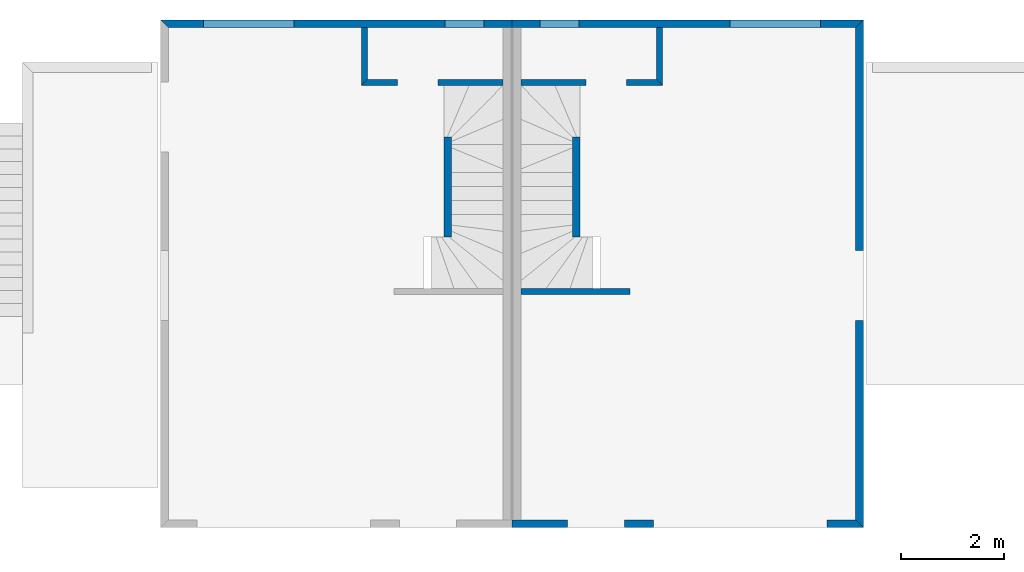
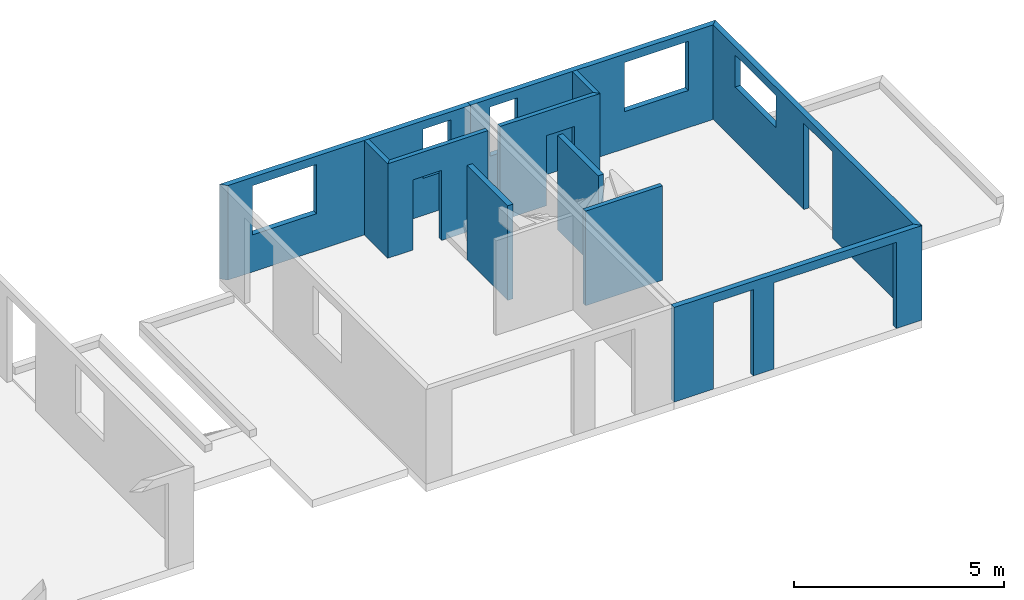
# One storey, part 2 of 8: 11 walls, 10 openings.
"""IFC2X3 building model written with IfcOpenShell, lengths in metres."""

from ifc_helpers import new_model, entity, si_unit, converted_unit, money_unit, direction, frame, origin_with_axes, origin_2d_with_axis, place, context, subcontext, project, spatial, polyline, rectangle, outline, extrude, material, layer, layer_set, layer_usage, type_object, element, save


model = new_model("IFC2X3")

# Units and contexts
model_context = context("Model", 3, precision=1e-05, world=origin_with_axes(), true_north=direction((0.0, 1.0)))
body_context = subcontext(model_context, "Body", "Model", "MODEL_VIEW")
ifc_project = project(units=[si_unit("LENGTHUNIT", "METRE"), si_unit("AREAUNIT", "SQUARE_METRE"), si_unit("VOLUMEUNIT", "CUBIC_METRE"), converted_unit("PLANEANGLEUNIT", "DEGREE", entity("IfcPlaneAngleMeasure", 0.0174532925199), si_unit("PLANEANGLEUNIT", "RADIAN"), dimensions=[0, 0, 0, 0, 0, 0, 0]), si_unit("SOLIDANGLEUNIT", "STERADIAN"), money_unit("EUR"), si_unit("TIMEUNIT", "SECOND"), si_unit("MASSUNIT", "GRAM"), si_unit("THERMODYNAMICTEMPERATUREUNIT", "DEGREE_CELSIUS"), si_unit("LUMINOUSINTENSITYUNIT", "LUMEN")], contexts=[model_context])

# Site, building, storey
site_placement = place(None, origin_with_axes())
site = spatial("IfcSite", under=ifc_project, at=site_placement, Name="Gelände", CompositionType="ELEMENT")
building_placement = place(site_placement, origin_with_axes())
building = spatial("IfcBuilding", under=site, at=building_placement, Name="Gebäude", CompositionType="ELEMENT")
storey_placement = place(building_placement, origin_with_axes())
storey = spatial("IfcBuildingStorey", under=building, at=storey_placement, Name="Erdgeschoss", CompositionType="ELEMENT", Elevation=0.0)

# Wall, openings
ifc_material = material(Name="MW, Backstein")
ifc_layer_1 = layer(ifc_material, 0.15, ventilated="UNKNOWN")
ifc_layer_set_1 = layer_set([ifc_layer_1], Name="MW, Backstein 0.15")
ifc_layer_usage_1 = layer_usage(ifc_layer_set_1, "AXIS2", "POSITIVE", 0.0)
wall_type_1 = type_object("IfcWallType", Name="MW, Backstein 150", PredefinedType="NOTDEFINED")
wall_1_placement = place(storey_placement, frame((32.3739410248, -7.59220593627, 0.0), z_axis=(0.0, 0.0, 1.0), x_axis=(1.0, 0.0, 0.0)))
wall_1 = element("IfcWallStandardCase", 1, at=wall_1_placement, inside=storey, type_object=wall_type_1, material=ifc_layer_usage_1, Name="Aussenwand D", context=body_context, shape_type="SweptSolid", body=[
    extrude(outline(polyline([(0.0, 0.0), (6.82, 0.0), (6.67, 0.15), (0.0, 0.15), (0.0, 0.0)])), origin_with_axes(), (0.0, 0.0, 1.0), 2.75),
])
opening_1_placement = place(wall_1_placement, frame((4.43, 0.0, 0.0), z_axis=(0.0, 0.0, 1.0), x_axis=(1.0, 0.0, 0.0)))
element("IfcOpeningElement", 2, at=opening_1_placement, cuts=wall_1, Name="Fenster D", context=body_context, shape_type="SweptSolid", body=[
    extrude(rectangle(XDim=3.36, YDim=2.51, at=origin_2d_with_axis()), frame((0.0, 0.15, 1.255), z_axis=(0.0, 1.0, 0.0), x_axis=(1.0, 0.0, 0.0)), (0.0, 0.0, -1.0), 0.15),
    extrude(rectangle(XDim=3.36, YDim=2.51, at=origin_2d_with_axis()), frame((0.0, 0.15, 1.255), z_axis=(0.0, -1.0, 0.0), x_axis=(1.0, 0.0, 0.0)), (0.0, 0.0, -1.0), 0.15),
])
opening_2_placement = place(wall_1_placement, frame((1.63, 0.0, 0.0), z_axis=(0.0, 0.0, 1.0), x_axis=(1.0, 0.0, 0.0)))
element("IfcOpeningElement", 3, at=opening_2_placement, cuts=wall_1, Name="Fenster D", context=body_context, shape_type="SweptSolid", body=[
    extrude(rectangle(XDim=1.1, YDim=2.51, at=origin_2d_with_axis()), frame((0.0, 0.15, 1.255), z_axis=(0.0, 1.0, 0.0), x_axis=(1.0, 0.0, 0.0)), (0.0, 0.0, -1.0), 0.15),
    extrude(rectangle(XDim=1.1, YDim=2.51, at=origin_2d_with_axis()), frame((0.0, 0.15, 1.255), z_axis=(0.0, -1.0, 0.0), x_axis=(1.0, 0.0, 0.0)), (0.0, 0.0, -1.0), 0.15),
])

ifc_layer_usage_2 = layer_usage(ifc_layer_set_1, "AXIS2", "NEGATIVE", 0.0)
wall_2_placement = place(storey_placement, frame((39.0439410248, -7.59220593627, 0.0), z_axis=(0.0, 0.0, 1.0), x_axis=(0.0, 1.0, 0.0)))
wall_2 = element("IfcWallStandardCase", 4, at=wall_2_placement, inside=storey, type_object=wall_type_1, material=ifc_layer_usage_2, Name="Aussenwand D", context=body_context, shape_type="SweptSolid", body=[
    extrude(outline(polyline([(0.0, -0.15), (9.84999998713, -0.15), (9.69999998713, 0.0), (0.15, 0.0), (0.0, -0.15)])), origin_with_axes(), (0.0, 0.0, 1.0), 2.75),
])
opening_3_placement = place(wall_2_placement, frame((7.66999998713, 0.0, 1.58), z_axis=(0.0, 0.0, 1.0), x_axis=(1.0, 0.0, 0.0)))
element("IfcOpeningElement", 5, at=opening_3_placement, cuts=wall_2, Name="Fenster D", context=body_context, shape_type="SweptSolid", body=[
    extrude(rectangle(XDim=1.96, YDim=0.93, at=origin_2d_with_axis()), frame((0.0, 0.0, 0.465), z_axis=(0.0, 1.0, 0.0), x_axis=(1.0, 0.0, 0.0)), (0.0, 0.0, -1.0), 0.15),
    extrude(rectangle(XDim=1.96, YDim=0.93, at=origin_2d_with_axis()), frame((0.0, 0.0, 0.465), z_axis=(0.0, -1.0, 0.0), x_axis=(1.0, 0.0, 0.0)), (0.0, 0.0, -1.0), 0.15),
])
opening_4_placement = place(wall_2_placement, frame((4.69999998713, 0.0, 0.0), z_axis=(0.0, 0.0, 1.0), x_axis=(1.0, 0.0, 0.0)))
element("IfcOpeningElement", 6, at=opening_4_placement, cuts=wall_2, Name="Fenster D", context=body_context, shape_type="SweptSolid", body=[
    extrude(rectangle(XDim=1.36, YDim=2.51, at=origin_2d_with_axis()), frame((0.0, -0.15, 1.255), z_axis=(0.0, -1.0, 0.0), x_axis=(1.0, 0.0, 0.0)), (0.0, 0.0, -1.0), 0.15),
    extrude(rectangle(XDim=1.36, YDim=2.51, at=origin_2d_with_axis()), frame((0.0, -0.15, 1.255), z_axis=(0.0, 1.0, 0.0), x_axis=(1.0, 0.0, 0.0)), (0.0, 0.0, -1.0), 0.15),
])

ifc_layer_usage_3 = layer_usage(ifc_layer_set_1, "AXIS2", "POSITIVE", 0.0)
wall_3_placement = place(storey_placement, frame((39.0439410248, 2.25779405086, 0.0), z_axis=(0.0, 0.0, 1.0), x_axis=(-1.0, 0.0, 0.0)))
wall_3 = element("IfcWallStandardCase", 7, at=wall_3_placement, inside=storey, type_object=wall_type_1, material=ifc_layer_usage_3, Name="Aussenwand D", context=body_context, shape_type="SweptSolid", body=[
    extrude(outline(polyline([(-0.15, 0.0), (6.67, 0.0), (6.67, 0.15), (0.0, 0.15), (-0.15, 0.0)])), origin_with_axes(), (0.0, 0.0, 1.0), 2.75),
])
opening_5_placement = place(wall_3_placement, frame((5.75, 0.0, 1.08), z_axis=(0.0, 0.0, 1.0), x_axis=(1.0, 0.0, 0.0)))
element("IfcOpeningElement", 8, at=opening_5_placement, cuts=wall_3, Name="Fenster D", context=body_context, shape_type="SweptSolid", body=[
    extrude(rectangle(XDim=0.76, YDim=1.43, at=origin_2d_with_axis()), frame((0.0, 0.15, 0.715), z_axis=(0.0, 1.0, 0.0), x_axis=(1.0, 0.0, 0.0)), (0.0, 0.0, -1.0), 0.15),
    extrude(rectangle(XDim=0.76, YDim=1.43, at=origin_2d_with_axis()), frame((0.0, 0.15, 0.715), z_axis=(0.0, -1.0, 0.0), x_axis=(1.0, 0.0, 0.0)), (0.0, 0.0, -1.0), 0.15),
])
opening_6_placement = place(wall_3_placement, frame((1.56, 0.0, 1.08), z_axis=(0.0, 0.0, 1.0), x_axis=(1.0, 0.0, 0.0)))
element("IfcOpeningElement", 9, at=opening_6_placement, cuts=wall_3, Name="Fenster D", context=body_context, shape_type="SweptSolid", body=[
    extrude(rectangle(XDim=1.76, YDim=1.43, at=origin_2d_with_axis()), frame((0.0, 0.15, 0.715), z_axis=(0.0, 1.0, 0.0), x_axis=(1.0, 0.0, 0.0)), (0.0, 0.0, -1.0), 0.15),
    extrude(rectangle(XDim=1.76, YDim=1.43, at=origin_2d_with_axis()), frame((0.0, 0.15, 0.715), z_axis=(0.0, -1.0, 0.0), x_axis=(1.0, 0.0, 0.0)), (0.0, 0.0, -1.0), 0.15),
])

# Walls
ifc_layer_usage_4 = layer_usage(ifc_layer_set_1, "AXIS2", "POSITIVE", 0.0)
wall_4_placement = place(storey_placement, frame((33.6939410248, -1.95220593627, 0.0), z_axis=(0.0, 0.0, 1.0), x_axis=(0.0, 1.0, 0.0)))
element("IfcWallStandardCase", 10, at=wall_4_placement, inside=storey, type_object=wall_type_1, material=ifc_layer_usage_4, Name="Wand-003", context=body_context, shape_type="SweptSolid", body=[
    extrude(outline(polyline([(0.0, 0.0), (1.94, 0.0), (1.94, 0.15), (0.0, 0.15), (0.0, 0.0)])), origin_with_axes(), (0.0, 0.0, 1.0), 2.75),
])
ifc_layer_usage_5 = layer_usage(ifc_layer_set_1, "AXIS2", "NEGATIVE", 0.0)
wall_5_placement = place(storey_placement, frame((31.0539410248, -1.95220593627, 0.0), z_axis=(0.0, 0.0, 1.0), x_axis=(0.0, 1.0, 0.0)))
element("IfcWallStandardCase", 11, at=wall_5_placement, inside=storey, type_object=wall_type_1, material=ifc_layer_usage_5, Name="Innenwand C", context=body_context, shape_type="SweptSolid", body=[
    extrude(outline(polyline([(0.0, -0.15), (1.94, -0.15), (1.94, 0.0), (0.0, 0.0), (0.0, -0.15)])), origin_with_axes(), (0.0, 0.0, 1.0), 2.75),
])

# Wall, openings
ifc_layer_usage_6 = layer_usage(ifc_layer_set_1, "AXIS2", "NEGATIVE", 0.0)
wall_6_placement = place(storey_placement, frame((25.7039410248, 2.25779405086, 0.0), z_axis=(0.0, 0.0, 1.0), x_axis=(1.0, 0.0, 0.0)))
wall_6 = element("IfcWallStandardCase", 12, at=wall_6_placement, inside=storey, type_object=wall_type_1, material=ifc_layer_usage_6, Name="Aussenwand C", context=body_context, shape_type="SweptSolid", body=[
    extrude(outline(polyline([(0.0, -0.15), (6.67, -0.15), (6.67, 0.0), (-0.15, 0.0), (0.0, -0.15)])), origin_with_axes(), (0.0, 0.0, 1.0), 2.75),
])
opening_7_placement = place(wall_6_placement, frame((5.75, 0.0, 1.08), z_axis=(0.0, 0.0, 1.0), x_axis=(1.0, 0.0, 0.0)))
element("IfcOpeningElement", 13, at=opening_7_placement, cuts=wall_6, Name="Fenster C", context=body_context, shape_type="SweptSolid", body=[
    extrude(rectangle(XDim=0.76, YDim=1.43, at=origin_2d_with_axis()), frame((0.0, -0.15, 0.715), z_axis=(0.0, -1.0, 0.0), x_axis=(1.0, 0.0, 0.0)), (0.0, 0.0, -1.0), 0.15),
    extrude(rectangle(XDim=0.76, YDim=1.43, at=origin_2d_with_axis()), frame((0.0, -0.15, 0.715), z_axis=(0.0, 1.0, 0.0), x_axis=(1.0, 0.0, 0.0)), (0.0, 0.0, -1.0), 0.15),
])
opening_8_placement = place(wall_6_placement, frame((1.56, 0.0, 1.08), z_axis=(0.0, 0.0, 1.0), x_axis=(1.0, 0.0, 0.0)))
element("IfcOpeningElement", 14, at=opening_8_placement, cuts=wall_6, Name="Fenster C", context=body_context, shape_type="SweptSolid", body=[
    extrude(rectangle(XDim=1.76, YDim=1.43, at=origin_2d_with_axis()), frame((0.0, -0.15, 0.715), z_axis=(0.0, -1.0, 0.0), x_axis=(1.0, 0.0, 0.0)), (0.0, 0.0, -1.0), 0.15),
    extrude(rectangle(XDim=1.76, YDim=1.43, at=origin_2d_with_axis()), frame((0.0, -0.15, 0.715), z_axis=(0.0, 1.0, 0.0), x_axis=(1.0, 0.0, 0.0)), (0.0, 0.0, -1.0), 0.15),
])

# Wall
ifc_layer_2 = layer(ifc_material, 0.12, ventilated="UNKNOWN")
ifc_layer_set_2 = layer_set([ifc_layer_2], Name="MW, Backstein 0.12")
ifc_layer_usage_7 = layer_usage(ifc_layer_set_2, "AXIS2", "POSITIVE", 0.0)
wall_type_2 = type_object("IfcWallType", Name="MW, Backstein 120", PredefinedType="NOTDEFINED")
wall_7_placement = place(storey_placement, frame((34.6639410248, -2.95220593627, 0.0), z_axis=(0.0, 0.0, 1.0), x_axis=(-1.0, 0.0, 0.0)))
element("IfcWallStandardCase", 15, at=wall_7_placement, inside=storey, type_object=wall_type_2, material=ifc_layer_usage_7, Name="Innenwand D", context=body_context, shape_type="SweptSolid", body=[
    extrude(outline(polyline([(0.0, 0.0), (2.12, 0.0), (2.12, 0.12), (0.0, 0.12), (0.0, 0.0)])), origin_with_axes(), (0.0, 0.0, 1.0), 2.75),
])

# Wall, opening
ifc_layer_usage_8 = layer_usage(ifc_layer_set_2, "AXIS2", "POSITIVE", 0.0)
wall_8_placement = place(storey_placement, frame((32.3939410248, 0.987794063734, 0.0), z_axis=(0.0, 0.0, 1.0), x_axis=(1.0, 0.0, 0.0)))
wall_8 = element("IfcWallStandardCase", 16, at=wall_8_placement, inside=storey, type_object=wall_type_2, material=ifc_layer_usage_8, Name="Innenwand D", context=body_context, shape_type="SweptSolid", body=[
    extrude(outline(polyline([(0.15, 0.0), (2.9, 0.0), (2.78, 0.12), (0.15, 0.12), (0.15, 0.0)])), origin_with_axes(), (0.0, 0.0, 1.0), 2.75),
])
opening_9_placement = place(wall_8_placement, frame((1.81, 0.0, 0.0), z_axis=(0.0, 0.0, 1.0), x_axis=(1.0, 0.0, 0.0)))
element("IfcOpeningElement", 17, at=opening_9_placement, cuts=wall_8, Name="Tür D", context=body_context, shape_type="SweptSolid", body=[
    extrude(rectangle(XDim=0.78, YDim=2.04, at=origin_2d_with_axis()), frame((0.0, 0.12, 1.02), z_axis=(0.0, -1.0, 0.0), x_axis=(1.0, 0.0, 0.0)), (0.0, 0.0, -1.0), 0.12),
    extrude(rectangle(XDim=0.78, YDim=2.04, at=origin_2d_with_axis()), frame((0.0, 0.12, 1.02), z_axis=(0.0, 1.0, 0.0), x_axis=(1.0, 0.0, 0.0)), (0.0, 0.0, -1.0), 0.12),
])

# Wall
ifc_layer_usage_9 = layer_usage(ifc_layer_set_2, "AXIS2", "NEGATIVE", 0.0)
wall_9_placement = place(storey_placement, frame((35.1739410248, 0.987794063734, 0.0), z_axis=(0.0, 0.0, 1.0), x_axis=(0.0, 1.0, 0.0)))
element("IfcWallStandardCase", 18, at=wall_9_placement, inside=storey, type_object=wall_type_2, material=ifc_layer_usage_9, Name="Innenwand D", context=body_context, shape_type="SweptSolid", body=[
    extrude(outline(polyline([(0.0, -0.12), (1.11999998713, -0.12), (1.11999998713, 0.0), (0.12, 0.0), (0.0, -0.12)])), origin_with_axes(), (0.0, 0.0, 1.0), 2.75),
])

# Wall, opening
ifc_layer_usage_10 = layer_usage(ifc_layer_set_2, "AXIS2", "NEGATIVE", 0.0)
wall_10_placement = place(storey_placement, frame((32.3539410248, 0.987794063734, 0.0), z_axis=(0.0, 0.0, 1.0), x_axis=(-1.0, 0.0, 0.0)))
wall_10 = element("IfcWallStandardCase", 19, at=wall_10_placement, inside=storey, type_object=wall_type_2, material=ifc_layer_usage_10, Name="Innenwand C", context=body_context, shape_type="SweptSolid", body=[
    extrude(outline(polyline([(0.15, -0.12), (2.78, -0.12), (2.9, 0.0), (0.15, 0.0), (0.15, -0.12)])), origin_with_axes(), (0.0, 0.0, 1.0), 2.75),
])
opening_10_placement = place(wall_10_placement, frame((1.81, 0.0, 0.0), z_axis=(0.0, 0.0, 1.0), x_axis=(1.0, 0.0, 0.0)))
element("IfcOpeningElement", 20, at=opening_10_placement, cuts=wall_10, Name="Tür C", context=body_context, shape_type="SweptSolid", body=[
    extrude(rectangle(XDim=0.78, YDim=2.04, at=origin_2d_with_axis()), frame((0.0, -0.12, 1.02), z_axis=(0.0, 1.0, 0.0), x_axis=(1.0, 0.0, 0.0)), (0.0, 0.0, -1.0), 0.12),
    extrude(rectangle(XDim=0.78, YDim=2.04, at=origin_2d_with_axis()), frame((0.0, -0.12, 1.02), z_axis=(0.0, -1.0, 0.0), x_axis=(1.0, 0.0, 0.0)), (0.0, 0.0, -1.0), 0.12),
])

# Wall
ifc_layer_usage_11 = layer_usage(ifc_layer_set_2, "AXIS2", "POSITIVE", 0.0)
wall_11_placement = place(storey_placement, frame((29.5739410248, 0.987794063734, 0.0), z_axis=(0.0, 0.0, 1.0), x_axis=(0.0, 1.0, 0.0)))
element("IfcWallStandardCase", 21, at=wall_11_placement, inside=storey, type_object=wall_type_2, material=ifc_layer_usage_11, Name="Innenwand C", context=body_context, shape_type="SweptSolid", body=[
    extrude(outline(polyline([(0.12, 0.0), (1.11999998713, 0.0), (1.11999998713, 0.12), (0.0, 0.12), (0.12, 0.0)])), origin_with_axes(), (0.0, 0.0, 1.0), 2.75),
])

save(model, "model.ifc")
